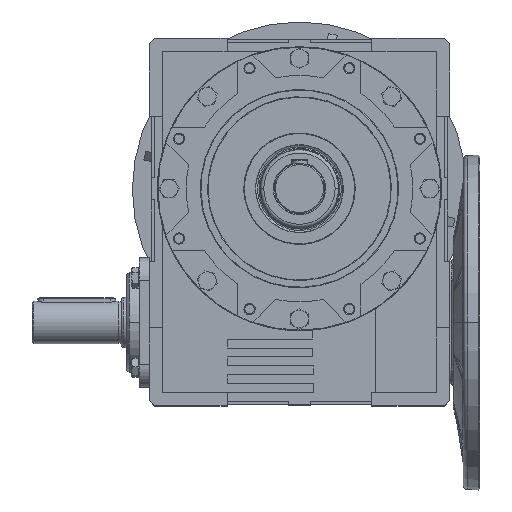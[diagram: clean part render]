
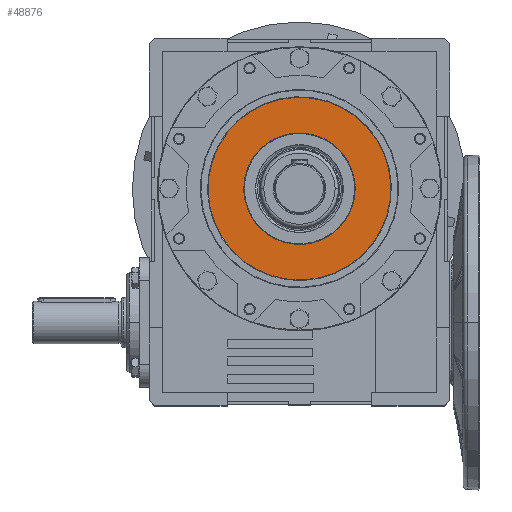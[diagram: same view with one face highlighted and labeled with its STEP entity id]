
A CAD part, top view. The second image highlights one B-rep face of the part: STEP entity #48876.
In plain terms, the highlighted planar face has unit normal (0, 0, 1).
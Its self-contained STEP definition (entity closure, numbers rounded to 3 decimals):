
#1338 = CARTESIAN_POINT ( 'NONE',  ( -46.194, -19.134, 79.55 ) ) ;
#1614 = AXIS2_PLACEMENT_3D ( 'NONE', #65948, #43565, #54238 ) ;
#2870 = AXIS2_PLACEMENT_3D ( 'NONE', #20253, #13891, #24200 ) ;
#7273 = CIRCLE ( 'NONE', #1614, 82. ) ;
#7681 = EDGE_CURVE ( 'NONE', #39427, #27175, #68689, .T. ) ;
#7831 = DIRECTION ( 'NONE',  ( 0., 0., -1. ) ) ;
#8476 = EDGE_LOOP ( 'NONE', ( #69843, #34736 ) ) ;
#8865 = CARTESIAN_POINT ( 'NONE',  ( 0., 0., 79.55 ) ) ;
#13891 = DIRECTION ( 'NONE',  ( 0., 0., -1. ) ) ;
#14971 = CARTESIAN_POINT ( 'NONE',  ( 46.194, 19.134, 79.55 ) ) ;
#15049 = DIRECTION ( 'NONE',  ( -0.924, -0.383, 0. ) ) ;
#16049 = AXIS2_PLACEMENT_3D ( 'NONE', #8865, #7831, #62544 ) ;
#17282 = VERTEX_POINT ( 'NONE', #14971 ) ;
#17870 = EDGE_CURVE ( 'NONE', #27175, #39427, #7273, .T. ) ;
#20253 = CARTESIAN_POINT ( 'NONE',  ( -31.38, 75.758, 79.55 ) ) ;
#21559 = ORIENTED_EDGE ( 'NONE', *, *, #42208, .T. ) ;
#24200 = DIRECTION ( 'NONE',  ( -0.924, -0.383, 0. ) ) ;
#24208 = CARTESIAN_POINT ( 'NONE',  ( 75.758, 31.38, 79.55 ) ) ;
#24899 = FACE_BOUND ( 'NONE', #36629, .T. ) ;
#27175 = VERTEX_POINT ( 'NONE', #24208 ) ;
#31670 = EDGE_CURVE ( 'NONE', #55305, #17282, #46703, .T. ) ;
#32735 = CARTESIAN_POINT ( 'NONE',  ( 0., 0., 79.55 ) ) ;
#34736 = ORIENTED_EDGE ( 'NONE', *, *, #17870, .F. ) ;
#36629 = EDGE_LOOP ( 'NONE', ( #63583, #21559 ) ) ;
#39427 = VERTEX_POINT ( 'NONE', #69366 ) ;
#41925 = FACE_OUTER_BOUND ( 'NONE', #8476, .T. ) ;
#42208 = EDGE_CURVE ( 'NONE', #17282, #55305, #53446, .T. ) ;
#43565 = DIRECTION ( 'NONE',  ( 0., 0., -1. ) ) ;
#43744 = DIRECTION ( 'NONE',  ( -0.924, -0.383, 0. ) ) ;
#46703 = CIRCLE ( 'NONE', #16049, 50. ) ;
#48037 = DIRECTION ( 'NONE',  ( 0., 0., -1. ) ) ;
#48876 = ADVANCED_FACE ( 'NONE', ( #24899, #41925 ), #57251, .F. ) ;
#53446 = CIRCLE ( 'NONE', #64829, 50. ) ;
#54238 = DIRECTION ( 'NONE',  ( -0.924, -0.383, 0. ) ) ;
#55305 = VERTEX_POINT ( 'NONE', #1338 ) ;
#57251 = PLANE ( 'NONE',  #2870 ) ;
#58423 = AXIS2_PLACEMENT_3D ( 'NONE', #59093, #69098, #15049 ) ;
#59093 = CARTESIAN_POINT ( 'NONE',  ( 0., 0., 79.55 ) ) ;
#62544 = DIRECTION ( 'NONE',  ( -0.924, -0.383, 0. ) ) ;
#63583 = ORIENTED_EDGE ( 'NONE', *, *, #31670, .T. ) ;
#64829 = AXIS2_PLACEMENT_3D ( 'NONE', #32735, #48037, #43744 ) ;
#65948 = CARTESIAN_POINT ( 'NONE',  ( 0., 0., 79.55 ) ) ;
#68689 = CIRCLE ( 'NONE', #58423, 82. ) ;
#69098 = DIRECTION ( 'NONE',  ( 0., 0., -1. ) ) ;
#69366 = CARTESIAN_POINT ( 'NONE',  ( -75.758, -31.38, 79.55 ) ) ;
#69843 = ORIENTED_EDGE ( 'NONE', *, *, #7681, .F. ) ;
